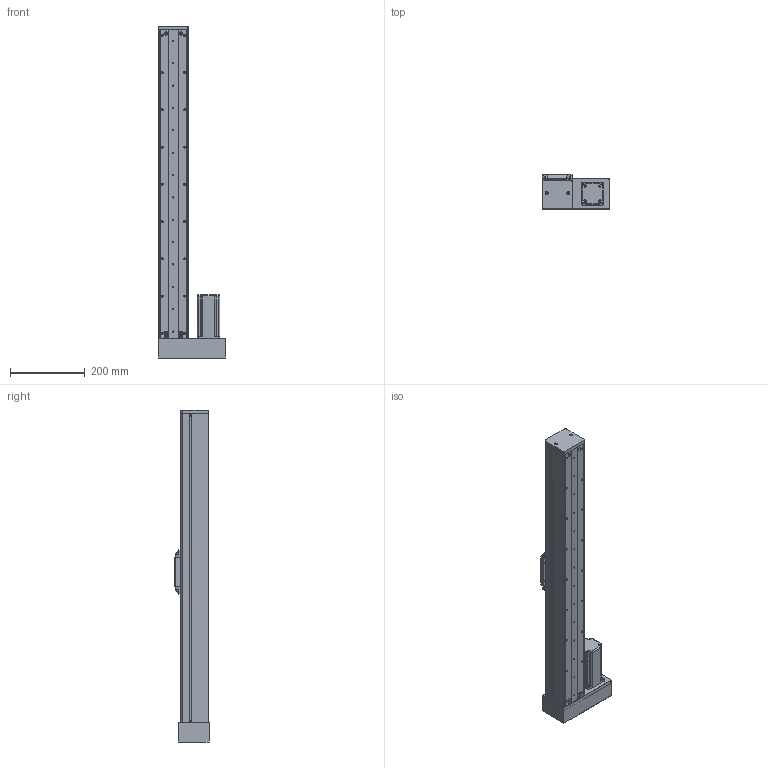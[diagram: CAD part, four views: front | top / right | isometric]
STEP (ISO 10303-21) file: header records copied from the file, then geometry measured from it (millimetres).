
FILE_DESCRIPTION (( 'STEP AP214' ), '1' );
FILE_NAME ('CF80-16-C-600-FWL60.STEP', '2016-05-25T00:52:19', ( '' ), ( '' ), 'SwSTEP 2.0', 'SolidWorks 2015', '' );
FILE_SCHEMA (( 'AUTOMOTIVE_DESIGN' ));
Length unit declared in the file: millimetre
Products named in the file (18): CF80詩湍; 萇儂; CFN80-600菁釱; CFN80墙板; CF80-酘殏60萇儂假蚾啣; CF80盓傅釱; EGR15絳寢; 賑雄輸裔啣; 詩湍揤啣; EGW15CA賑輸; CFN80傻嘐隅釱; 賑雄輸; 幗紩佪裝; CF80-16-C-600-FWL60; CF80耜啣; 幗紩蹟譫; CF80肮祭謫欶; 21-5M-25-囀噤10
Assembly tree (20 placements, depth 2):
  CF80-16-C-600-FWL60
    CFN80-600菁釱
    CFN80墙板  x2
    EGW15CA賑輸
    EGR15絳寢
    CF80盓傅釱
    賑雄輸
    CFN80傻嘐隅釱
    幗紩佪裝
    幗紩蹟譫
    賑雄輸裔啣
    CF80耜啣
    CF80詩湍
    詩湍揤啣  x2
    21-5M-25-囀噤10  x2
    CF80-酘殏60萇儂假蚾啣
    萇儂
    CF80肮祭謫欶
Bounding box: 182.01 x 91.51 x 891 mm (x, y, z)
Volume: 2334288.7 mm3; surface area: 1009761.7 mm2
Topology: 20 solids, 20 shells, 1107 faces, 3095 edges, 2030 vertices
Faces by surface type: plane 574, cylinder 492, bspline 33, cone 8
Entity records: 35436 total; most frequent: CARTESIAN_POINT 9317, ORIENTED_EDGE 5268, DIRECTION 5209, EDGE_CURVE 2634, AXIS2_PLACEMENT_3D 1810, VERTEX_POINT 1736, VECTOR 1589, LINE 1589
